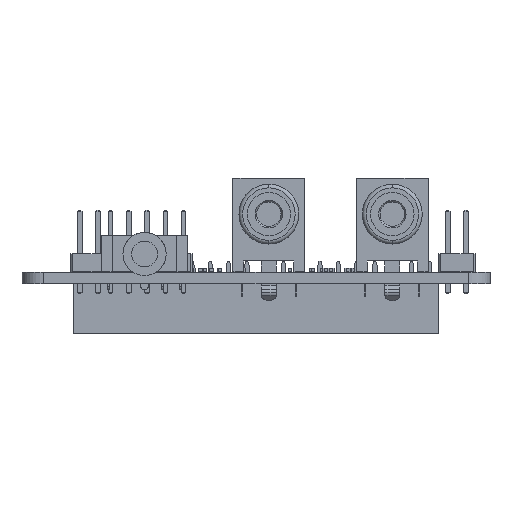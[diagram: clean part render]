
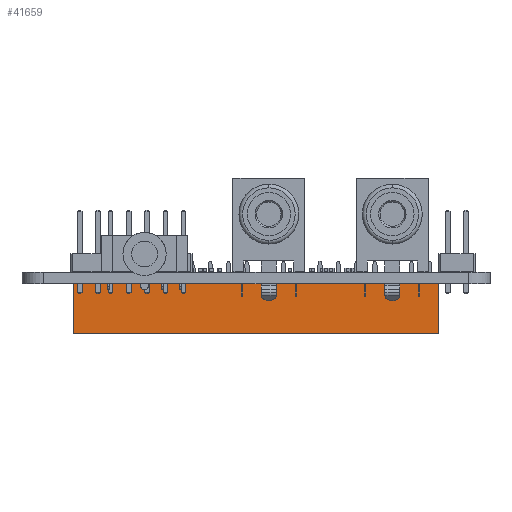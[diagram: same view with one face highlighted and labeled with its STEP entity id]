
A CAD part, front view. The second image highlights one B-rep face of the part: STEP entity #41659.
In plain terms, the highlighted planar face has unit normal (0, -1, 0) as drawn and (-1, 0, 0) by its records, which use the part's own axes.
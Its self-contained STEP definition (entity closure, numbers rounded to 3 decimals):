
#28253 = PLANE('',#28254);
#28254 = AXIS2_PLACEMENT_3D('',#28255,#28256,#28257);
#28255 = CARTESIAN_POINT('',(-3.81,-49.53,0.));
#28256 = DIRECTION('',(0.,1.,0.));
#28257 = DIRECTION('',(1.,0.,0.));
#28281 = PLANE('',#28282);
#28282 = AXIS2_PLACEMENT_3D('',#28283,#28284,#28285);
#28283 = CARTESIAN_POINT('',(1.27,-49.53,7.));
#28284 = DIRECTION('',(-0.,0.,-1.));
#28285 = DIRECTION('',(0.,-1.,-0.));
#28309 = PLANE('',#28310);
#28310 = AXIS2_PLACEMENT_3D('',#28311,#28312,#28313);
#28311 = CARTESIAN_POINT('',(1.27,1.27,0.));
#28312 = DIRECTION('',(0.,-1.,0.));
#28313 = DIRECTION('',(-1.,0.,0.));
#28351 = VERTEX_POINT('',#28352);
#28352 = CARTESIAN_POINT('',(-3.81,-49.53,0.));
#28368 = PLANE('',#28369);
#28369 = AXIS2_PLACEMENT_3D('',#28370,#28371,#28372);
#28370 = CARTESIAN_POINT('',(1.27,-49.53,0.));
#28371 = DIRECTION('',(-0.,0.,-1.));
#28372 = DIRECTION('',(0.,-1.,-0.));
#28380 = EDGE_CURVE('',#28351,#28381,#28383,.T.);
#28381 = VERTEX_POINT('',#28382);
#28382 = CARTESIAN_POINT('',(-3.81,-49.53,7.));
#28383 = SURFACE_CURVE('',#28384,(#28388,#28395),.PCURVE_S1.);
#28384 = LINE('',#28385,#28386);
#28385 = CARTESIAN_POINT('',(-3.81,-49.53,0.));
#28386 = VECTOR('',#28387,1.);
#28387 = DIRECTION('',(0.,0.,1.));
#28388 = PCURVE('',#28253,#28389);
#28389 = DEFINITIONAL_REPRESENTATION('',(#28390),#28394);
#28390 = LINE('',#28391,#28392);
#28391 = CARTESIAN_POINT('',(0.,0.));
#28392 = VECTOR('',#28393,1.);
#28393 = DIRECTION('',(0.,-1.));
#28394 = ( GEOMETRIC_REPRESENTATION_CONTEXT(2) 
PARAMETRIC_REPRESENTATION_CONTEXT() REPRESENTATION_CONTEXT('2D SPACE',''
  ) );
#28395 = PCURVE('',#28396,#28401);
#28396 = PLANE('',#28397);
#28397 = AXIS2_PLACEMENT_3D('',#28398,#28399,#28400);
#28398 = CARTESIAN_POINT('',(-3.81,1.27,0.));
#28399 = DIRECTION('',(1.,0.,0.));
#28400 = DIRECTION('',(0.,-1.,0.));
#28401 = DEFINITIONAL_REPRESENTATION('',(#28402),#28406);
#28402 = LINE('',#28403,#28404);
#28403 = CARTESIAN_POINT('',(50.8,0.));
#28404 = VECTOR('',#28405,1.);
#28405 = DIRECTION('',(0.,-1.));
#28406 = ( GEOMETRIC_REPRESENTATION_CONTEXT(2) 
PARAMETRIC_REPRESENTATION_CONTEXT() REPRESENTATION_CONTEXT('2D SPACE',''
  ) );
#28563 = VERTEX_POINT('',#28564);
#28564 = CARTESIAN_POINT('',(-3.81,1.27,7.));
#28585 = EDGE_CURVE('',#28586,#28563,#28588,.T.);
#28586 = VERTEX_POINT('',#28587);
#28587 = CARTESIAN_POINT('',(-3.81,1.27,0.));
#28588 = SURFACE_CURVE('',#28589,(#28593,#28600),.PCURVE_S1.);
#28589 = LINE('',#28590,#28591);
#28590 = CARTESIAN_POINT('',(-3.81,1.27,0.));
#28591 = VECTOR('',#28592,1.);
#28592 = DIRECTION('',(0.,0.,1.));
#28593 = PCURVE('',#28309,#28594);
#28594 = DEFINITIONAL_REPRESENTATION('',(#28595),#28599);
#28595 = LINE('',#28596,#28597);
#28596 = CARTESIAN_POINT('',(5.08,0.));
#28597 = VECTOR('',#28598,1.);
#28598 = DIRECTION('',(0.,-1.));
#28599 = ( GEOMETRIC_REPRESENTATION_CONTEXT(2) 
PARAMETRIC_REPRESENTATION_CONTEXT() REPRESENTATION_CONTEXT('2D SPACE',''
  ) );
#28600 = PCURVE('',#28396,#28601);
#28601 = DEFINITIONAL_REPRESENTATION('',(#28602),#28606);
#28602 = LINE('',#28603,#28604);
#28603 = CARTESIAN_POINT('',(0.,0.));
#28604 = VECTOR('',#28605,1.);
#28605 = DIRECTION('',(0.,-1.));
#28606 = ( GEOMETRIC_REPRESENTATION_CONTEXT(2) 
PARAMETRIC_REPRESENTATION_CONTEXT() REPRESENTATION_CONTEXT('2D SPACE',''
  ) );
#28730 = EDGE_CURVE('',#28563,#28381,#28731,.T.);
#28731 = SURFACE_CURVE('',#28732,(#28736,#28743),.PCURVE_S1.);
#28732 = LINE('',#28733,#28734);
#28733 = CARTESIAN_POINT('',(-3.81,1.27,7.));
#28734 = VECTOR('',#28735,1.);
#28735 = DIRECTION('',(0.,-1.,0.));
#28736 = PCURVE('',#28281,#28737);
#28737 = DEFINITIONAL_REPRESENTATION('',(#28738),#28742);
#28738 = LINE('',#28739,#28740);
#28739 = CARTESIAN_POINT('',(-50.8,5.08));
#28740 = VECTOR('',#28741,1.);
#28741 = DIRECTION('',(1.,0.));
#28742 = ( GEOMETRIC_REPRESENTATION_CONTEXT(2) 
PARAMETRIC_REPRESENTATION_CONTEXT() REPRESENTATION_CONTEXT('2D SPACE',''
  ) );
#28743 = PCURVE('',#28396,#28744);
#28744 = DEFINITIONAL_REPRESENTATION('',(#28745),#28749);
#28745 = LINE('',#28746,#28747);
#28746 = CARTESIAN_POINT('',(0.,-7.));
#28747 = VECTOR('',#28748,1.);
#28748 = DIRECTION('',(1.,0.));
#28749 = ( GEOMETRIC_REPRESENTATION_CONTEXT(2) 
PARAMETRIC_REPRESENTATION_CONTEXT() REPRESENTATION_CONTEXT('2D SPACE',''
  ) );
#33337 = EDGE_CURVE('',#28586,#28351,#33338,.T.);
#33338 = SURFACE_CURVE('',#33339,(#33343,#33350),.PCURVE_S1.);
#33339 = LINE('',#33340,#33341);
#33340 = CARTESIAN_POINT('',(-3.81,1.27,0.));
#33341 = VECTOR('',#33342,1.);
#33342 = DIRECTION('',(0.,-1.,0.));
#33343 = PCURVE('',#28368,#33344);
#33344 = DEFINITIONAL_REPRESENTATION('',(#33345),#33349);
#33345 = LINE('',#33346,#33347);
#33346 = CARTESIAN_POINT('',(-50.8,5.08));
#33347 = VECTOR('',#33348,1.);
#33348 = DIRECTION('',(1.,0.));
#33349 = ( GEOMETRIC_REPRESENTATION_CONTEXT(2) 
PARAMETRIC_REPRESENTATION_CONTEXT() REPRESENTATION_CONTEXT('2D SPACE',''
  ) );
#33350 = PCURVE('',#28396,#33351);
#33351 = DEFINITIONAL_REPRESENTATION('',(#33352),#33356);
#33352 = LINE('',#33353,#33354);
#33353 = CARTESIAN_POINT('',(0.,0.));
#33354 = VECTOR('',#33355,1.);
#33355 = DIRECTION('',(1.,0.));
#33356 = ( GEOMETRIC_REPRESENTATION_CONTEXT(2) 
PARAMETRIC_REPRESENTATION_CONTEXT() REPRESENTATION_CONTEXT('2D SPACE',''
  ) );
#41659 = ADVANCED_FACE('',(#41660),#28396,.F.);
#41660 = FACE_BOUND('',#41661,.F.);
#41661 = EDGE_LOOP('',(#41662,#41663,#41664,#41665));
#41662 = ORIENTED_EDGE('',*,*,#28585,.T.);
#41663 = ORIENTED_EDGE('',*,*,#28730,.T.);
#41664 = ORIENTED_EDGE('',*,*,#28380,.F.);
#41665 = ORIENTED_EDGE('',*,*,#33337,.F.);
